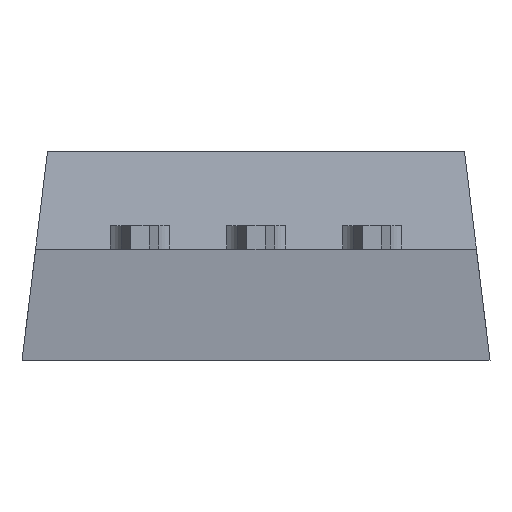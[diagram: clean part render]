
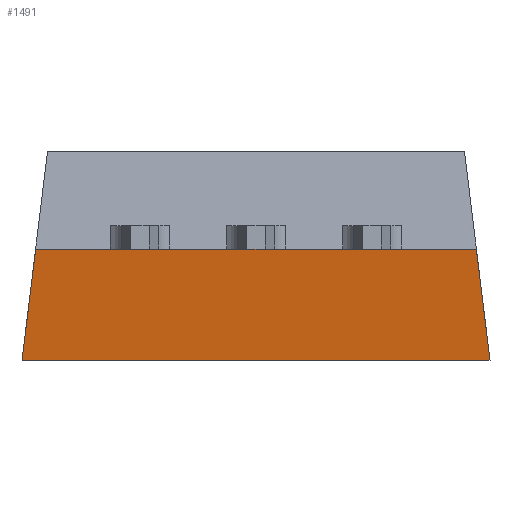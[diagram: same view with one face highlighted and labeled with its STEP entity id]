
A CAD part, front view. The second image highlights one B-rep face of the part: STEP entity #1491.
In plain terms, the highlighted planar face has unit normal (0, -0.992, -0.124).
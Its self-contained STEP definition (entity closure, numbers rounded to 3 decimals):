
#1330=CARTESIAN_POINT('',(5.04,-4.375,0.));
#1331=VERTEX_POINT('',#1330);
#1338=CARTESIAN_POINT('',(-5.04,-4.375,0.));
#1339=VERTEX_POINT('',#1338);
#1340=CARTESIAN_POINT('',(5.04,-4.375,0.));
#1341=DIRECTION('',(-1.,-0.,0.));
#1342=VECTOR('',#1341,10.08);
#1343=LINE('',#1340,#1342);
#1344=EDGE_CURVE('',#1331,#1339,#1343,.T.);
#1414=CARTESIAN_POINT('',(4.747,-4.675,2.4));
#1415=VERTEX_POINT('',#1414);
#1422=CARTESIAN_POINT('',(4.747,-4.675,2.4));
#1423=DIRECTION('',(0.12,0.123,-0.985));
#1424=VECTOR('',#1423,2.436);
#1425=LINE('',#1422,#1424);
#1426=EDGE_CURVE('',#1415,#1331,#1425,.T.);
#1446=CARTESIAN_POINT('',(-4.747,-4.675,2.4));
#1447=VERTEX_POINT('',#1446);
#1448=CARTESIAN_POINT('',(-5.04,-4.375,0.));
#1449=DIRECTION('',(0.12,-0.123,0.985));
#1450=VECTOR('',#1449,2.436);
#1451=LINE('',#1448,#1450);
#1452=EDGE_CURVE('',#1339,#1447,#1451,.T.);
#1471=CARTESIAN_POINT('',(4.747,-4.675,2.4));
#1472=DIRECTION('',(-1.,-0.,0.));
#1473=VECTOR('',#1472,9.493);
#1474=LINE('',#1471,#1473);
#1475=EDGE_CURVE('',#1415,#1447,#1474,.T.);
#1480=CARTESIAN_POINT('',(0.,-4.375,0.));
#1481=DIRECTION('',(0.,-0.992,-0.124));
#1482=DIRECTION('',(1.,0.,-0.));
#1483=AXIS2_PLACEMENT_3D('',#1480,#1481,#1482);
#1484=PLANE('',#1483);
#1485=ORIENTED_EDGE('',*,*,#1426,.F.);
#1486=ORIENTED_EDGE('',*,*,#1475,.T.);
#1487=ORIENTED_EDGE('',*,*,#1452,.F.);
#1488=ORIENTED_EDGE('',*,*,#1344,.F.);
#1489=EDGE_LOOP('',(#1485,#1486,#1487,#1488));
#1490=FACE_BOUND('',#1489,.T.);
#1491=ADVANCED_FACE('',(#1490),#1484,.T.);
